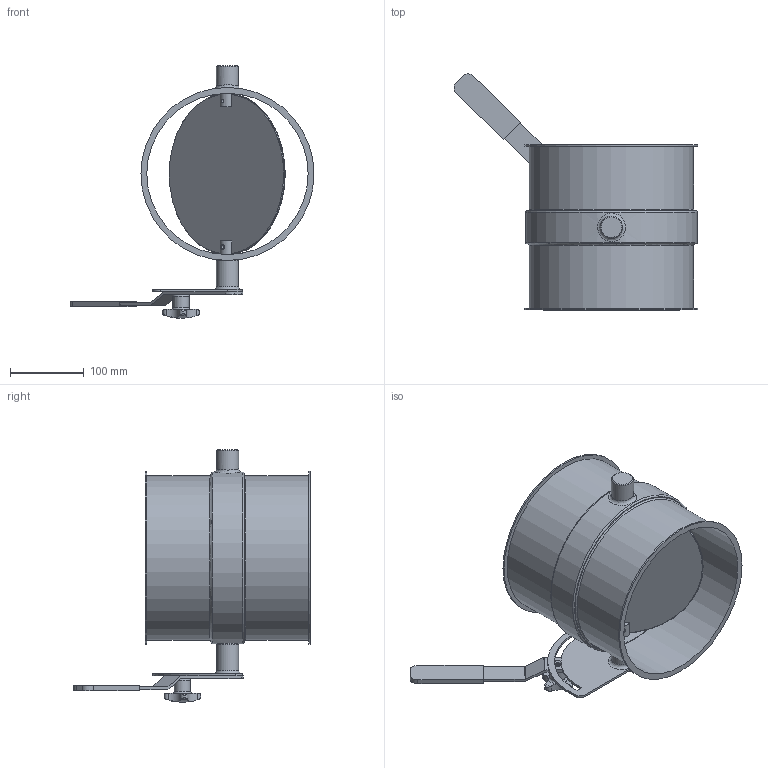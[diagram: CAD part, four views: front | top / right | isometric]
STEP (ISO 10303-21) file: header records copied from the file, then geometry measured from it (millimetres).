
FILE_DESCRIPTION((''),'2;1');
FILE_NAME('U:\Wolfgang\Marcel-3D\fertig\Kapitel 8\2221076.stp','2012-01-13T11:11:58',('iwienholt'),(''),'Autodesk Inventor 2010','Autodesk Inventor 2010','');
FILE_SCHEMA(('AUTOMOTIVE_DESIGN { 1 0 10303 214 1 1 1 1 }'));
Length unit declared in the file: millimetre
Products named in the file (7): 2221076; Bolzen D20; ganter_din_6335-ku-50-m10-k; Umstellsegment D20; Scheibe224b; Griff D20b; 2221076-1
Assembly tree (6 placements, depth 2):
  2221076
    Bolzen D20
    ganter_din_6335-ku-50-m10-k
    Umstellsegment D20
    Scheibe224b
    Griff D20b
    2221076-1
Bounding box: 331.29 x 320.72 x 343 mm (x, y, z)
Volume: 734193.1 mm3; surface area: 540319.9 mm2
Topology: 6 solids, 6 shells, 137 faces, 334 edges, 222 vertices
Faces by surface type: cylinder 54, plane 53, torus 13, bspline 11, cone 5, sphere 1
Full cylindrical faces by diameter (mm): 6 x4, 8 x1, 9 x1, 10 x2, 16 x1, 20 x8, 22 x1, 30 x3, 219 x3, 220 x1, 223 x2, 228 x1, 229 x1, 233 x1, 235 x2
Entity records: 5161 total; most frequent: CARTESIAN_POINT 1984, DIRECTION 626, ORIENTED_EDGE 532, AXIS2_PLACEMENT_3D 270, EDGE_CURVE 266, EDGE_LOOP 228, VERTEX_POINT 206, FACE_OUTER_BOUND 137
